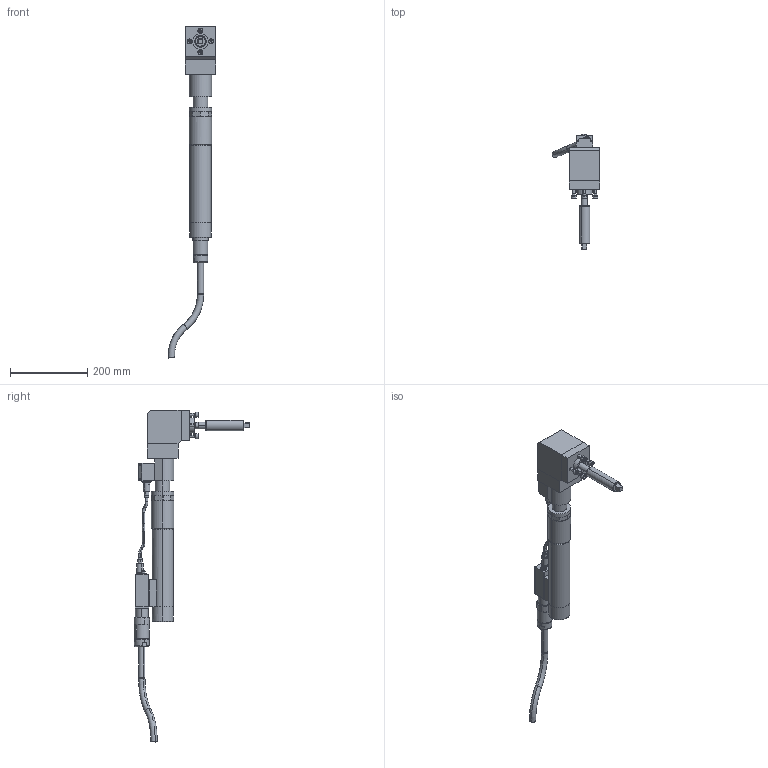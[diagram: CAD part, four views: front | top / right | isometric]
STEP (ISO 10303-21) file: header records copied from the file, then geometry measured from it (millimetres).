
FILE_DESCRIPTION(('CATIA V5 STEP Exchange'),'2;1');
FILE_NAME('C:\pro\7920303_ECR205_DWR63_AW250_AllCATPart.stp','2008-11-10T09:30:54+00:00',('none'),('none'),'CATIA Version 5 Release 17 (IN-10)','CATIA V5 STEP AP203','none');
FILE_SCHEMA(('CONFIG_CONTROL_DESIGN'));
Length unit declared in the file: millimetre
Products named in the file (1): 7920303_ECR205_DWR63_AW250_AllCATPart
Bounding box: 123.82 x 300.48 x 861.56 mm (x, y, z)
Volume: 2529762.7 mm3; surface area: 277107 mm2
Topology: 17 solids, 17 shells, 453 faces, 1016 edges, 632 vertices
Faces by surface type: plane 195, cylinder 156, cone 62, torus 40
Entity records: 11909 total; most frequent: CARTESIAN_POINT 2399, ORIENTED_EDGE 2008, DIRECTION 1664, EDGE_CURVE 1004, AXIS2_PLACEMENT_3D 807, VERTEX_POINT 632, VECTOR 506, LINE 506
